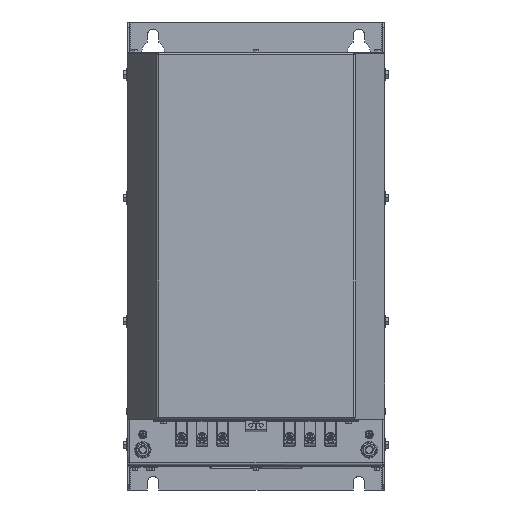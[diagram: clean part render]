
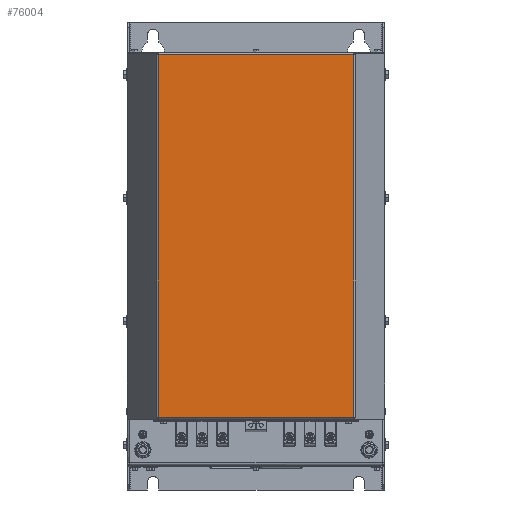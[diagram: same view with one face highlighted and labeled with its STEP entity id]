
A CAD part, front view. The second image highlights one B-rep face of the part: STEP entity #76004.
In plain terms, the highlighted planar face has unit normal (0, -1, 0).
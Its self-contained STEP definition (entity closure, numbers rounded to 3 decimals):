
#75965=CARTESIAN_POINT('',(95.093,-230.,-158.5));
#75966=DIRECTION('',(0.0,-1.0,0.0));
#75967=DIRECTION('',(0.0,0.0,-1.0));
#75968=AXIS2_PLACEMENT_3D('',#75965,#75966,#75967);
#75969=PLANE('',#75968);
#75970=CARTESIAN_POINT('',(-95.093,-230.,-156.7));
#75971=VERTEX_POINT('',#75970);
#75972=CARTESIAN_POINT('',(95.093,-230.,-156.7));
#75973=VERTEX_POINT('',#75972);
#75974=CARTESIAN_POINT('',(-95.093,-230.,-156.7));
#75975=DIRECTION('',(1.0,0.0,0.0));
#75976=VECTOR('',#75975,190.187);
#75977=LINE('',#75974,#75976);
#75978=EDGE_CURVE('',#75971,#75973,#75977,.T.);
#75979=ORIENTED_EDGE('',*,*,#75978,.T.);
#75980=CARTESIAN_POINT('',(95.093,-230.,195.7));
#75981=VERTEX_POINT('',#75980);
#75982=CARTESIAN_POINT('',(95.093,-230.,-156.7));
#75983=DIRECTION('',(0.0,0.0,1.0));
#75984=VECTOR('',#75983,352.4);
#75985=LINE('',#75982,#75984);
#75986=EDGE_CURVE('',#75973,#75981,#75985,.T.);
#75987=ORIENTED_EDGE('',*,*,#75986,.T.);
#75988=CARTESIAN_POINT('',(-95.093,-230.,195.7));
#75989=VERTEX_POINT('',#75988);
#75990=CARTESIAN_POINT('',(95.093,-230.,195.7));
#75991=DIRECTION('',(-1.0,0.0,0.0));
#75992=VECTOR('',#75991,190.187);
#75993=LINE('',#75990,#75992);
#75994=EDGE_CURVE('',#75981,#75989,#75993,.T.);
#75995=ORIENTED_EDGE('',*,*,#75994,.T.);
#75996=CARTESIAN_POINT('',(-95.093,-230.,-156.7));
#75997=DIRECTION('',(0.0,0.0,1.0));
#75998=VECTOR('',#75997,352.4);
#75999=LINE('',#75996,#75998);
#76000=EDGE_CURVE('',#75971,#75989,#75999,.T.);
#76001=ORIENTED_EDGE('',*,*,#76000,.F.);
#76002=EDGE_LOOP('',(#75979,#75987,#75995,#76001));
#76003=FACE_OUTER_BOUND('',#76002,.T.);
#76004=ADVANCED_FACE('',(#76003),#75969,.T.);
